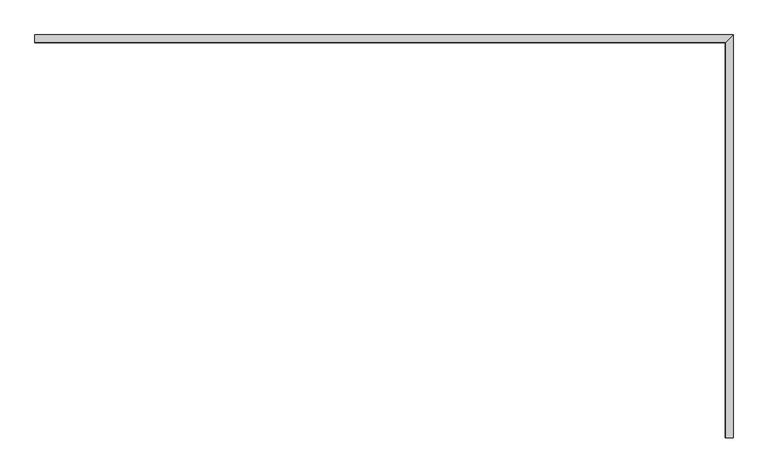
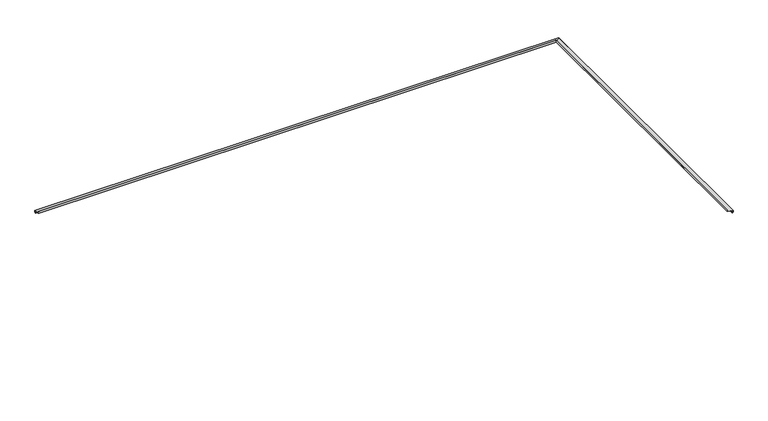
"""IFC4 building model written with IfcOpenShell, lengths in millimetres: proxy geometry, Карниз5 : Карниз."""

from ifc_helpers import new_model, si_unit, origin, place, context, project, spatial, faceted_brep, source, transform, mapped, element, save


def generic_models_49eaa156(model_context):
    return source(origin(), model_context, "Body", "Brep", [
        faceted_brep([(8899.9997514, 27250.0, 114.9877934), (8899.9997514, 27250.0, 144.9877934), (8899.9997514, 27253.0, 144.9877934), (8899.9997514, 27253.0, 117.5050923), (8899.9997514, 27344.7848515, 101.3209465), (8899.9997514, 27344.7848515, 79.5093488), (8899.9997514, 27338.0, 72.7244973), (8899.9997514, 27338.0, 67.7244973), (8899.9997514, 27335.0, 67.7244973), (8899.9997514, 27335.0, 72.7244973), (8899.9997514, 27341.7848515, 79.5093488), (8899.9997514, 27341.7848515, 98.8036476), (17100.0, 22560.0, 114.9877934), (17191.7848515, 22560.0, 98.8036476), (17191.7848515, 22560.0, 79.5093488), (17185.0, 22560.0, 72.7244973), (17185.0, 22560.0, 67.7244973), (17188.0, 22560.0, 67.7244973), (17188.0, 22560.0, 72.7244973), (17194.7848515, 22560.0, 79.5093488), (17194.7848515, 22560.0, 101.3209465), (17103.0, 22560.0, 117.5050923), (17103.0, 22560.0, 144.9877934), (17100.0, 22560.0, 144.9877934), (17100.0, 27250.0, 114.9877934), (17100.0, 27250.0, 144.9877934), (17103.0, 27253.0, 144.9877934), (17103.0, 27253.0, 117.5050923), (17194.7848515, 27344.7848515, 101.3209465), (17194.7848515, 27344.7848515, 79.5093488), (17188.0, 27338.0, 72.7244973), (17188.0, 27338.0, 67.7244973), (17185.0, 27335.0, 67.7244973), (17185.0, 27335.0, 72.7244973), (17191.7848515, 27341.7848515, 79.5093488), (17191.7848515, 27341.7848515, 98.8036476)], [[[0, 1, 2, 3, 4, 5, 6, 7, 8, 9, 10, 11]], [[12, 13, 14, 15, 16, 17, 18, 19, 20, 21, 22, 23]], [[1, 0, 24, 25]], [[3, 2, 26, 27]], [[4, 3, 27, 28]], [[5, 4, 28, 29]], [[6, 5, 29, 30]], [[7, 6, 30, 31]], [[9, 8, 32, 33]], [[10, 9, 33, 34]], [[11, 10, 34, 35]], [[0, 11, 35, 24]], [[2, 1, 25, 23, 22, 26]], [[8, 7, 31, 17, 16, 32]], [[25, 24, 12, 23]], [[27, 26, 22, 21]], [[28, 27, 21, 20]], [[29, 28, 20, 19]], [[30, 29, 19, 18]], [[31, 30, 18, 17]], [[33, 32, 16, 15]], [[34, 33, 15, 14]], [[35, 34, 14, 13]], [[24, 35, 13, 12]]]),
    ])


if __name__ == "__main__":
    model = new_model("IFC4")
    model_context = context("Model", 3, world=origin())
    ifc_project = project(units=[si_unit("LENGTHUNIT", "METRE", prefix="MILLI")], contexts=[model_context])
    site = spatial("IfcSite", under=ifc_project)
    building = spatial("IfcBuilding", under=site)
    placement = place(None, origin())
    generic_models_shape = generic_models_49eaa156(model_context)
    element("IfcBuildingElementProxy", 1, Name="Карниз5 : Карниз", ObjectType="Карниз5 : Карниз", at=placement, inside=building, context=model_context, shape_type="MappedRepresentation", body=[
        mapped(generic_models_shape, transform((0.0, 0.0, 0.0), x_axis=(1.0, 0.0, 0.0), y_axis=(0.0, 1.0, 0.0), z_axis=(0.0, 0.0, 1.0))),
    ])
    save(model, "model.ifc")
